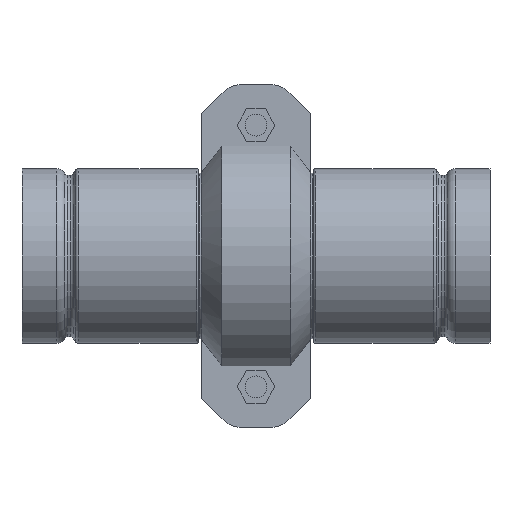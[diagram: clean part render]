
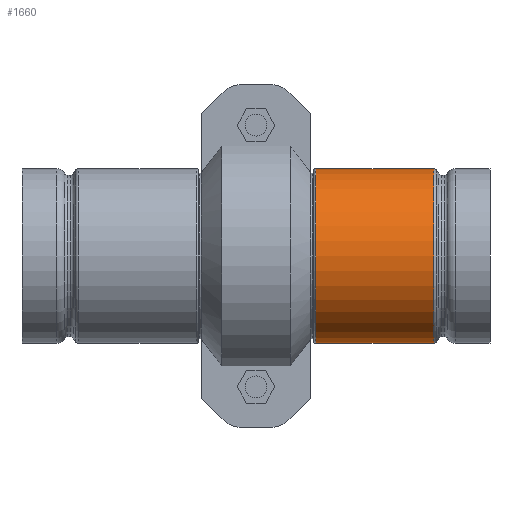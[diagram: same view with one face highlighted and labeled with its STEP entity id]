
A CAD part, front view. The second image highlights one B-rep face of the part: STEP entity #1660.
In plain terms, the highlighted cylindrical face has radius 38.1 mm (diameter 76.2 mm), a full revolution.
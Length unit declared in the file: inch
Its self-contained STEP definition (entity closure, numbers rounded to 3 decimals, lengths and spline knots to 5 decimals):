
#53=LINE('',#2705,#146);
#146=VECTOR('',#2176,1.5);
#239=CYLINDRICAL_SURFACE('',#1870,1.5);
#329=FACE_OUTER_BOUND('',#420,.T.);
#420=EDGE_LOOP('',(#1152,#1153,#1154,#1155,#1156,#1157,#1158,#1159));
#549=CIRCLE('',#1866,1.5);
#550=CIRCLE('',#1867,1.5);
#552=CIRCLE('',#1869,1.5);
#553=CIRCLE('',#1871,1.5);
#554=CIRCLE('',#1872,1.5);
#555=CIRCLE('',#1873,1.5);
#682=VERTEX_POINT('',#2692);
#683=VERTEX_POINT('',#2693);
#684=VERTEX_POINT('',#2695);
#685=VERTEX_POINT('',#2700);
#686=VERTEX_POINT('',#2701);
#687=VERTEX_POINT('',#2703);
#863=EDGE_CURVE('',#682,#683,#549,.T.);
#864=EDGE_CURVE('',#683,#684,#550,.T.);
#866=EDGE_CURVE('',#684,#682,#552,.T.);
#867=EDGE_CURVE('',#685,#686,#553,.T.);
#868=EDGE_CURVE('',#687,#685,#554,.T.);
#869=EDGE_CURVE('',#687,#683,#53,.T.);
#870=EDGE_CURVE('',#686,#687,#555,.T.);
#1152=ORIENTED_EDGE('',*,*,#867,.F.);
#1153=ORIENTED_EDGE('',*,*,#868,.F.);
#1154=ORIENTED_EDGE('',*,*,#869,.T.);
#1155=ORIENTED_EDGE('',*,*,#863,.F.);
#1156=ORIENTED_EDGE('',*,*,#866,.F.);
#1157=ORIENTED_EDGE('',*,*,#864,.F.);
#1158=ORIENTED_EDGE('',*,*,#869,.F.);
#1159=ORIENTED_EDGE('',*,*,#870,.F.);
#1660=ADVANCED_FACE('',(#329),#239,.T.);
#1866=AXIS2_PLACEMENT_3D('',#2694,#2162,#2163);
#1867=AXIS2_PLACEMENT_3D('',#2696,#2164,#2165);
#1869=AXIS2_PLACEMENT_3D('',#2698,#2168,#2169);
#1870=AXIS2_PLACEMENT_3D('',#2699,#2170,#2171);
#1871=AXIS2_PLACEMENT_3D('',#2702,#2172,#2173);
#1872=AXIS2_PLACEMENT_3D('',#2704,#2174,#2175);
#1873=AXIS2_PLACEMENT_3D('',#2706,#2177,#2178);
#2162=DIRECTION('center_axis',(-1.,0.,0.));
#2163=DIRECTION('ref_axis',(0.,-1.,0.));
#2164=DIRECTION('center_axis',(-1.,0.,0.));
#2165=DIRECTION('ref_axis',(0.,-1.,0.));
#2168=DIRECTION('center_axis',(-1.,0.,0.));
#2169=DIRECTION('ref_axis',(0.,-1.,0.));
#2170=DIRECTION('center_axis',(1.,0.,0.));
#2171=DIRECTION('ref_axis',(0.,1.,0.));
#2172=DIRECTION('center_axis',(1.,0.,0.));
#2173=DIRECTION('ref_axis',(0.,-1.,0.));
#2174=DIRECTION('center_axis',(1.,0.,0.));
#2175=DIRECTION('ref_axis',(0.,-1.,0.));
#2176=DIRECTION('',(-1.,0.,0.));
#2177=DIRECTION('center_axis',(1.,0.,0.));
#2178=DIRECTION('ref_axis',(0.,-1.,0.));
#2692=CARTESIAN_POINT('',(0.999,1.5,0.));
#2693=CARTESIAN_POINT('',(0.999,-1.5,0.));
#2694=CARTESIAN_POINT('Origin',(0.999,0.,0.));
#2695=CARTESIAN_POINT('',(0.999,0.,1.5));
#2696=CARTESIAN_POINT('Origin',(0.999,0.,0.));
#2698=CARTESIAN_POINT('Origin',(0.999,0.,0.));
#2699=CARTESIAN_POINT('Origin',(2.01424,0.,0.));
#2700=CARTESIAN_POINT('',(3.02824,1.5,0.));
#2701=CARTESIAN_POINT('',(3.02824,0.,1.5));
#2702=CARTESIAN_POINT('Origin',(3.02824,0.,0.));
#2703=CARTESIAN_POINT('',(3.02824,-1.5,0.));
#2704=CARTESIAN_POINT('Origin',(3.02824,0.,0.));
#2705=CARTESIAN_POINT('',(2.01424,-1.5,0.));
#2706=CARTESIAN_POINT('Origin',(3.02824,0.,0.));
